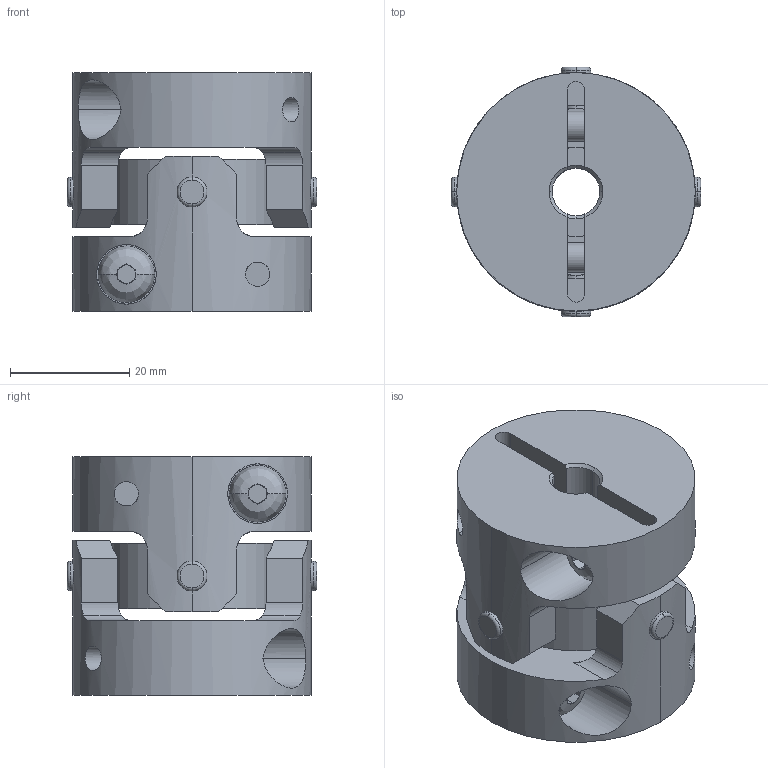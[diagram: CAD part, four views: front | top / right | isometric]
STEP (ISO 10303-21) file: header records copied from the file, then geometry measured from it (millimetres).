
FILE_DESCRIPTION((''),'2;1');
FILE_NAME('UA-40C-8×8.stp','2013-05-22T09:02:43',(''),(''),'AutoCAD STEP 2000i','AutoCAD 2000i',', , ');
FILE_SCHEMA(('CONFIG_CONTROL_DESIGN'));
Length unit declared in the file: millimetre
Products named in the file (6): UA-40C-8×8; 忣兜1; UA-4002-D08-1; BTN-M5; UA-4002-D08; UA40-SEN
Assembly tree (6 placements, depth 3):
  UA-40C-8×8
    忣兜1
    UA-4002-D08-1
      BTN-M5
    UA-4002-D08
      BTN-M5
    UA40-SEN
Bounding box: 41.81 x 41.81 x 40 mm (x, y, z)
Volume: 35218.7 mm3; surface area: 15696.8 mm2
Topology: 1 solids, 1 shells, 250 faces, 646 edges, 408 vertices
Faces by surface type: plane 122, cylinder 96, cone 16, bspline 8, torus 8
Entity records: 9627 total; most frequent: CARTESIAN_POINT 3371, ORIENTED_EDGE 1292, DIRECTION 1288, EDGE_CURVE 646, AXIS2_PLACEMENT_3D 497, VERTEX_POINT 408, VECTOR 294, LINE 294
